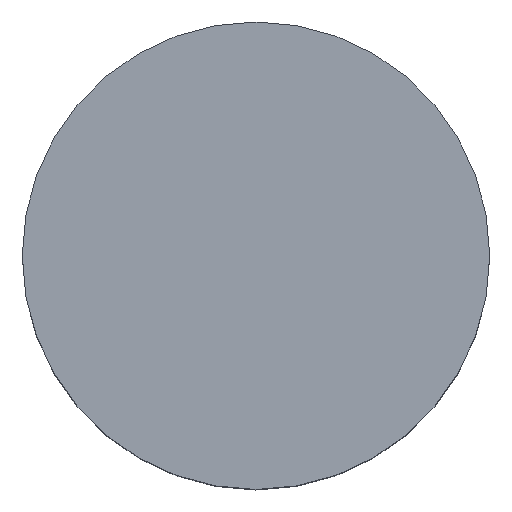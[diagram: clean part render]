
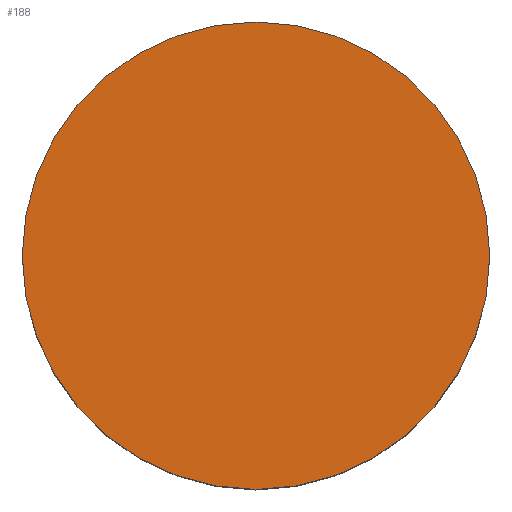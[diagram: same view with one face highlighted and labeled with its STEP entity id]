
A CAD part, top view. The second image highlights one B-rep face of the part: STEP entity #188.
In plain terms, the highlighted planar face has unit normal (0, 0, 1).
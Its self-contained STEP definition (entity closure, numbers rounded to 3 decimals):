
#188=ADVANCED_FACE('',(#612),#288,.F.);
#288=PLANE('',#1554);
#612=FACE_OUTER_BOUND('',#704,.T.);
#704=EDGE_LOOP('',(#920));
#920=ORIENTED_EDGE('',*,*,#1318,.F.);
#1182=VERTEX_POINT('',#2232);
#1318=EDGE_CURVE('',#1182,#1182,#1450,.T.);
#1450=CIRCLE('',#1553,27.);
#1553=AXIS2_PLACEMENT_3D('',#2231,#1798,#1799);
#1554=AXIS2_PLACEMENT_3D('',#2233,#1800,#1801);
#1798=DIRECTION('',(0.,0.,-1.));
#1799=DIRECTION('',(-1.,0.,0.));
#1800=DIRECTION('',(0.,0.,-1.));
#1801=DIRECTION('',(-1.,0.,0.));
#2231=CARTESIAN_POINT('',(0.,0.,85.5));
#2232=CARTESIAN_POINT('',(-27.,0.,85.5));
#2233=CARTESIAN_POINT('',(0.,0.,85.5));
